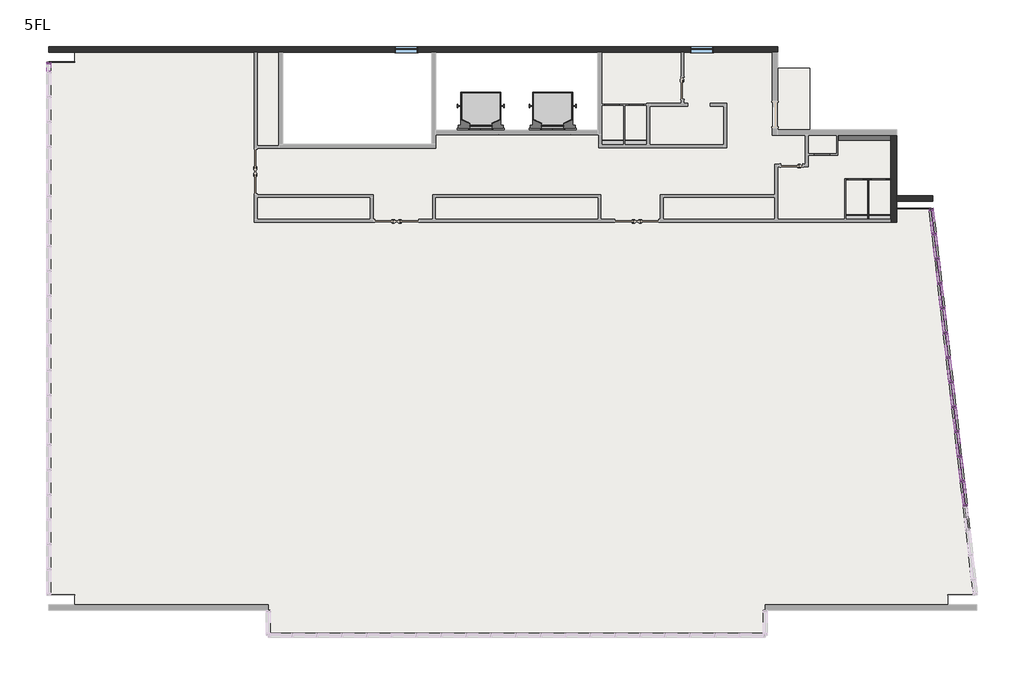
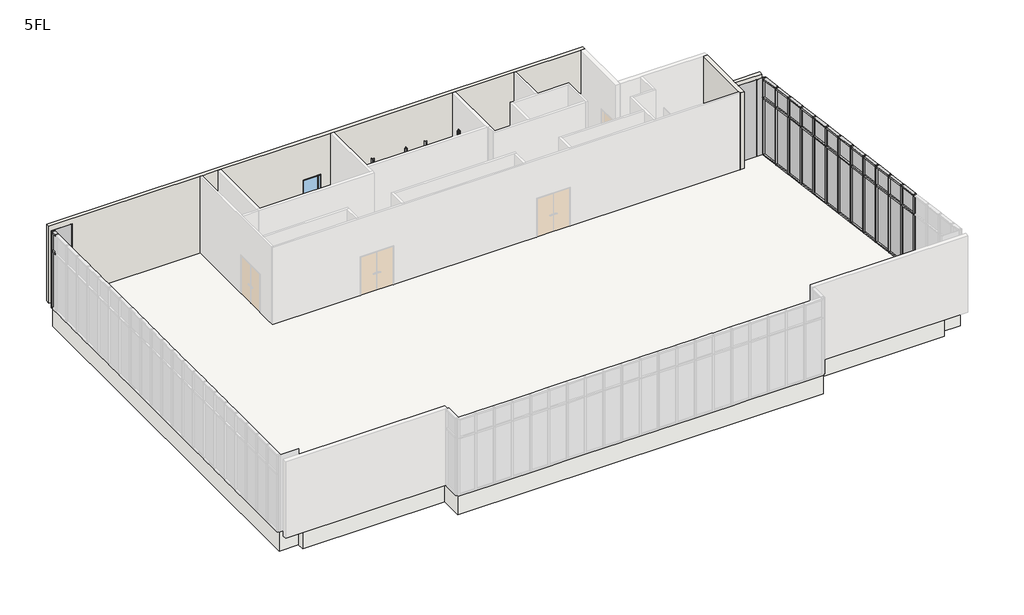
# One storey, part 4 of 4: 67 members, 28 plates, 8 proxies, 5 walls, 4 flow terminals, 2 slabs, 2 windows.
"""IFC4 building model written with IfcOpenShell, lengths in millimetres."""

from ifc_helpers import new_model, si_unit, frame, origin, place, context, project, spatial, polyline, outline, extrude, faceted_brep, transform, mapped, element, save
from components import specialty_equipment_d755c605, d150_h1500_9903e80e, w550_h2000_5054dc5e, w600_h2000_381ad4ff, flow_terminal_205c4ddb, member_70x150_cdd4dcf9, member_70x150_66cf63de, member_70x150_26475b18, member_70x150_ad4265bc, member_70x150_1b280ac3, member_70x150_76429c73, member_70x150_a15bb337, member_70x150_da24903b, plate_d1366ea1, plate_ab860a3c, plate_97be90fd, plate_28587fd3, plate_396bcf3c, w800_h1100_2b598eca

model = new_model("IFC4")

# Units and contexts
model_context = context("Model", 3, world=origin())
ifc_project = project(units=[si_unit("LENGTHUNIT", "METRE", prefix="MILLI")], contexts=[model_context])

# Site, building, storey
site = spatial("IfcSite", under=ifc_project)
building = spatial("IfcBuilding", under=site)
storey = spatial("IfcBuildingStorey", under=building, Name="5FL", Elevation=16600.0)

# Proxies
placement = place(None, origin())
specialty_equipment_shape = specialty_equipment_d755c605(model_context)
element("IfcBuildingElementProxy", 1, Name="エレベーター : 9人乗", ObjectType="エレベーター : 9人乗", at=placement, inside=storey, context=model_context, shape_type="MappedRepresentation", body=[
    mapped(specialty_equipment_shape, transform((-11220.9784025, 13649.6868987, 16600.0), x_axis=(1.0, 0.0, 0.0), y_axis=(0.0, 1.0, 0.0), z_axis=(0.0, 0.0, 1.0))),
])
element("IfcBuildingElementProxy", 2, Name="エレベーター : 9人乗", ObjectType="エレベーター : 9人乗", at=placement, inside=storey, context=model_context, shape_type="MappedRepresentation", body=[
    mapped(specialty_equipment_shape, transform((-13820.9784025, 13649.6868987, 16600.0), x_axis=(1.0, 0.0, 0.0), y_axis=(0.0, 1.0, 0.0), z_axis=(0.0, 0.0, 1.0))),
])
d150_h1500_shape = d150_h1500_9903e80e(model_context)
element("IfcBuildingElementProxy", 3, Name="r ライニング : D150 H1500", ObjectType="r ライニング : D150 H1500", at=placement, inside=storey, context=model_context, shape_type="MappedRepresentation", body=[
    mapped(d150_h1500_shape, transform((-736.1600971, 13521.6596024, 16600.0), x_axis=(1.0, 0.0, 0.0), y_axis=(0.0, 1.0, 0.0), z_axis=(0.0, 0.0, 1.0))),
])
w550_h2000_shape = w550_h2000_5054dc5e(model_context)
element("IfcBuildingElementProxy", 4, Name="r トイレブース扉 : W550 H2000", ObjectType="r トイレブース扉 : W550 H2000", at=placement, inside=storey, context=model_context, shape_type="MappedRepresentation", body=[
    mapped(w550_h2000_shape, transform((-8823.4784025, 14649.6868987, 16600.0), x_axis=(-1.0, 0.0, 0.0), y_axis=(0.0, -1.0, 0.0), z_axis=(0.0, 0.0, 1.0))),
])
element("IfcBuildingElementProxy", 5, Name="r トイレブース扉 : W550 H2000", ObjectType="r トイレブース扉 : W550 H2000", at=placement, inside=storey, context=model_context, shape_type="MappedRepresentation", body=[
    mapped(w550_h2000_shape, transform((-7940.9784025, 14649.6868987, 16600.0), x_axis=(-1.0, 0.0, 0.0), y_axis=(0.0, -1.0, 0.0), z_axis=(0.0, 0.0, 1.0))),
])
element("IfcBuildingElementProxy", 6, Name="r トイレブース扉 : W550 H2000", ObjectType="r トイレブース扉 : W550 H2000", at=placement, inside=storey, context=model_context, shape_type="MappedRepresentation", body=[
    mapped(w550_h2000_shape, transform((-5.9784025, 11949.6868987, 16600.0), x_axis=(-1.0, 0.0, 0.0), y_axis=(0.0, -1.0, 0.0), z_axis=(0.0, 0.0, 1.0))),
])
element("IfcBuildingElementProxy", 7, Name="r トイレブース扉 : W550 H2000", ObjectType="r トイレブース扉 : W550 H2000", at=placement, inside=storey, context=model_context, shape_type="MappedRepresentation", body=[
    mapped(w550_h2000_shape, transform((834.0215975, 11949.6868987, 16600.0), x_axis=(-1.0, 0.0, 0.0), y_axis=(0.0, -1.0, 0.0), z_axis=(0.0, 0.0, 1.0))),
])
w600_h2000_shape = w600_h2000_381ad4ff(model_context)
element("IfcBuildingElementProxy", 8, Name="r トイレブース扉 : W600 H2000", ObjectType="r トイレブース扉 : W600 H2000", at=placement, inside=storey, context=model_context, shape_type="MappedRepresentation", body=[
    mapped(w600_h2000_shape, transform((-1220.9784025, 12849.6868987, 16600.0), x_axis=(-1.0, 0.0, 0.0), y_axis=(0.0, -1.0, 0.0), z_axis=(0.0, 0.0, 1.0))),
])

# Flow terminals
flow_terminal_shape = flow_terminal_205c4ddb(model_context)
element("IfcFlowTerminal", 9, ObjectType="洋式便器 - ライニング付 - 2D : タイプ 1", at=placement, inside=storey, context=model_context, shape_type="MappedRepresentation", body=[
    mapped(flow_terminal_shape, transform((-9045.9784025, 13149.6868987, 16600.0), x_axis=(1.0, 0.0, 0.0), y_axis=(0.0, 1.0, 0.0), z_axis=(0.0, 0.0, 1.0))),
])
element("IfcFlowTerminal", 10, ObjectType="洋式便器 - ライニング付 - 2D : タイプ 1", at=placement, inside=storey, context=model_context, shape_type="MappedRepresentation", body=[
    mapped(flow_terminal_shape, transform((-8205.9784025, 13149.6868987, 16600.0), x_axis=(1.0, 0.0, 0.0), y_axis=(0.0, 1.0, 0.0), z_axis=(0.0, 0.0, 1.0))),
])
element("IfcFlowTerminal", 11, ObjectType="洋式便器 - ライニング付 - 2D : タイプ 1", at=placement, inside=storey, context=model_context, shape_type="MappedRepresentation", body=[
    mapped(flow_terminal_shape, transform((-210.9784025, 10449.6868987, 16600.0), x_axis=(1.0, 0.0, 0.0), y_axis=(0.0, 1.0, 0.0), z_axis=(0.0, 0.0, 1.0))),
])
element("IfcFlowTerminal", 12, ObjectType="洋式便器 - ライニング付 - 2D : タイプ 1", at=placement, inside=storey, context=model_context, shape_type="MappedRepresentation", body=[
    mapped(flow_terminal_shape, transform((629.0215975, 10449.6868987, 16600.0), x_axis=(1.0, 0.0, 0.0), y_axis=(0.0, 1.0, 0.0), z_axis=(0.0, 0.0, 1.0))),
])

# Members
member_70x150_shape = member_70x150_cdd4dcf9(model_context)
element("IfcMember", 13, ObjectType="長方形のマリオン : 70x150", at=placement, inside=storey, context=model_context, shape_type="MappedRepresentation", body=[
    mapped(member_70x150_shape, transform((3840.8083387, 134.7603905, 16600.0), x_axis=(0.11354659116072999, -0.9935326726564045, 0.0), y_axis=(-0.9935326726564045, -0.11354659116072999, 0.0), z_axis=(0.0, 0.0, -1.0))),
])
element("IfcMember", 14, ObjectType="長方形のマリオン : 70x150", at=placement, inside=storey, context=model_context, shape_type="MappedRepresentation", body=[
    mapped(member_70x150_shape, transform((3738.6164066, 1028.9397959, 16600.0), x_axis=(0.11354659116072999, -0.9935326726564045, 0.0), y_axis=(-0.9935326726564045, -0.11354659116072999, 0.0), z_axis=(0.0, 0.0, -1.0))),
])
element("IfcMember", 15, ObjectType="長方形のマリオン : 70x150", at=placement, inside=storey, context=model_context, shape_type="MappedRepresentation", body=[
    mapped(member_70x150_shape, transform((3636.4244746, 1923.1192013, 16600.0), x_axis=(0.11354659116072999, -0.9935326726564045, 0.0), y_axis=(-0.9935326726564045, -0.11354659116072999, 0.0), z_axis=(0.0, 0.0, -1.0))),
])
element("IfcMember", 16, ObjectType="長方形のマリオン : 70x150", at=placement, inside=storey, context=model_context, shape_type="MappedRepresentation", body=[
    mapped(member_70x150_shape, transform((3534.2325425, 2817.2986066, 16600.0), x_axis=(0.11354659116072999, -0.9935326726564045, 0.0), y_axis=(-0.9935326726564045, -0.11354659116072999, 0.0), z_axis=(0.0, 0.0, -1.0))),
])
element("IfcMember", 17, ObjectType="長方形のマリオン : 70x150", at=placement, inside=storey, context=model_context, shape_type="MappedRepresentation", body=[
    mapped(member_70x150_shape, transform((3432.0406105, 3711.478012, 16600.0), x_axis=(0.11354659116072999, -0.9935326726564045, 0.0), y_axis=(-0.9935326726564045, -0.11354659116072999, 0.0), z_axis=(0.0, 0.0, -1.0))),
])
element("IfcMember", 18, ObjectType="長方形のマリオン : 70x150", at=placement, inside=storey, context=model_context, shape_type="MappedRepresentation", body=[
    mapped(member_70x150_shape, transform((3329.8486784, 4605.6574174, 16600.0), x_axis=(0.11354659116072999, -0.9935326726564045, 0.0), y_axis=(-0.9935326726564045, -0.11354659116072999, 0.0), z_axis=(0.0, 0.0, -1.0))),
])
element("IfcMember", 19, ObjectType="長方形のマリオン : 70x150", at=placement, inside=storey, context=model_context, shape_type="MappedRepresentation", body=[
    mapped(member_70x150_shape, transform((3227.6567464, 5499.8368228, 16600.0), x_axis=(0.11354659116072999, -0.9935326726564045, 0.0), y_axis=(-0.9935326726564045, -0.11354659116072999, 0.0), z_axis=(0.0, 0.0, -1.0))),
])
element("IfcMember", 20, ObjectType="長方形のマリオン : 70x150", at=placement, inside=storey, context=model_context, shape_type="MappedRepresentation", body=[
    mapped(member_70x150_shape, transform((3125.4648143, 6394.0162282, 16600.0), x_axis=(0.11354659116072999, -0.9935326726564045, 0.0), y_axis=(-0.9935326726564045, -0.11354659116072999, 0.0), z_axis=(0.0, 0.0, -1.0))),
])
element("IfcMember", 21, ObjectType="長方形のマリオン : 70x150", at=placement, inside=storey, context=model_context, shape_type="MappedRepresentation", body=[
    mapped(member_70x150_shape, transform((3023.2728823, 7288.1956336, 16600.0), x_axis=(0.11354659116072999, -0.9935326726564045, 0.0), y_axis=(-0.9935326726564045, -0.11354659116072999, 0.0), z_axis=(0.0, 0.0, -1.0))),
])
element("IfcMember", 22, ObjectType="長方形のマリオン : 70x150", at=placement, inside=storey, context=model_context, shape_type="MappedRepresentation", body=[
    mapped(member_70x150_shape, transform((2921.0809503, 8182.375039, 16600.0), x_axis=(0.11354659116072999, -0.9935326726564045, 0.0), y_axis=(-0.9935326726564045, -0.11354659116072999, 0.0), z_axis=(0.0, 0.0, -1.0))),
])
element("IfcMember", 23, ObjectType="長方形のマリオン : 70x150", at=placement, inside=storey, context=model_context, shape_type="MappedRepresentation", body=[
    mapped(member_70x150_shape, transform((2818.8890182, 9076.5544444, 16600.0), x_axis=(0.11354659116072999, -0.9935326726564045, 0.0), y_axis=(-0.9935326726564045, -0.11354659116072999, 0.0), z_axis=(0.0, 0.0, -1.0))),
])
element("IfcMember", 24, ObjectType="長方形のマリオン : 70x150", at=placement, inside=storey, context=model_context, shape_type="MappedRepresentation", body=[
    mapped(member_70x150_shape, transform((2716.6970862, 9970.7338498, 16600.0), x_axis=(0.11354659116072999, -0.9935326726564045, 0.0), y_axis=(-0.9935326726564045, -0.11354659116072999, 0.0), z_axis=(0.0, 0.0, -1.0))),
])
member_70x150_2_shape = member_70x150_66cf63de(model_context)
element("IfcMember", 25, ObjectType="長方形のマリオン : 70x150", at=placement, inside=storey, context=model_context, shape_type="MappedRepresentation", body=[
    mapped(member_70x150_2_shape, transform((2618.4792848, 10830.1396116, 16600.0), x_axis=(0.0, 0.0, -1.0), y_axis=(-0.9935326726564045, -0.11354659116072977, 0.0), z_axis=(-0.11354659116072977, 0.9935326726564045, 0.0))),
])
element("IfcMember", 26, ObjectType="長方形のマリオン : 70x150", at=placement, inside=storey, context=model_context, shape_type="MappedRepresentation", body=[
    mapped(member_70x150_2_shape, transform((3844.7824693, 99.9867469, 16600.0), x_axis=(0.0, 0.0, -1.0), y_axis=(-0.9935326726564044, -0.11354659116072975, 0.0), z_axis=(-0.11354659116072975, 0.9935326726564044, 0.0))),
])
element("IfcMember", 27, ObjectType="長方形のマリオン : 70x150", at=placement, inside=storey, context=model_context, shape_type="MappedRepresentation", body=[
    mapped(member_70x150_2_shape, transform((3742.5905373, 994.1661523, 16600.0), x_axis=(0.0, 0.0, -1.0), y_axis=(-0.9935326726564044, -0.1135465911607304, 0.0), z_axis=(-0.11354659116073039, 0.9935326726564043, 0.0))),
])
element("IfcMember", 28, ObjectType="長方形のマリオン : 70x150", at=placement, inside=storey, context=model_context, shape_type="MappedRepresentation", body=[
    mapped(member_70x150_2_shape, transform((3640.3986053, 1888.3455577, 16600.0), x_axis=(0.0, 0.0, -1.0), y_axis=(-0.9935326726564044, -0.1135465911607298, 0.0), z_axis=(-0.1135465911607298, 0.9935326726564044, 0.0))),
])
element("IfcMember", 29, ObjectType="長方形のマリオン : 70x150", at=placement, inside=storey, context=model_context, shape_type="MappedRepresentation", body=[
    mapped(member_70x150_2_shape, transform((3538.2066732, 2782.5249631, 16600.0), x_axis=(0.0, 0.0, -1.0), y_axis=(-0.9935326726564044, -0.1135465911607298, 0.0), z_axis=(-0.1135465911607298, 0.9935326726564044, 0.0))),
])
element("IfcMember", 30, ObjectType="長方形のマリオン : 70x150", at=placement, inside=storey, context=model_context, shape_type="MappedRepresentation", body=[
    mapped(member_70x150_2_shape, transform((3436.0147412, 3676.7043685, 16600.0), x_axis=(0.0, 0.0, -1.0), y_axis=(-0.9935326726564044, -0.11354659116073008, 0.0), z_axis=(-0.11354659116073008, 0.9935326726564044, 0.0))),
])
element("IfcMember", 31, ObjectType="長方形のマリオン : 70x150", at=placement, inside=storey, context=model_context, shape_type="MappedRepresentation", body=[
    mapped(member_70x150_2_shape, transform((3333.8228091, 4570.8837739, 16600.0), x_axis=(0.0, 0.0, -1.0), y_axis=(-0.9935326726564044, -0.11354659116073, 0.0), z_axis=(-0.11354659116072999, 0.9935326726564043, 0.0))),
])
element("IfcMember", 32, ObjectType="長方形のマリオン : 70x150", at=placement, inside=storey, context=model_context, shape_type="MappedRepresentation", body=[
    mapped(member_70x150_2_shape, transform((3231.6308771, 5465.0631793, 16600.0), x_axis=(0.0, 0.0, -1.0), y_axis=(-0.9935326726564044, -0.11354659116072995, 0.0), z_axis=(-0.11354659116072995, 0.9935326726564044, 0.0))),
])
element("IfcMember", 33, ObjectType="長方形のマリオン : 70x150", at=placement, inside=storey, context=model_context, shape_type="MappedRepresentation", body=[
    mapped(member_70x150_2_shape, transform((3129.438945, 6359.2425847, 16600.0), x_axis=(0.0, 0.0, -1.0), y_axis=(-0.9935326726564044, -0.11354659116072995, 0.0), z_axis=(-0.11354659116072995, 0.9935326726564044, 0.0))),
])
element("IfcMember", 34, ObjectType="長方形のマリオン : 70x150", at=placement, inside=storey, context=model_context, shape_type="MappedRepresentation", body=[
    mapped(member_70x150_2_shape, transform((3027.247013, 7253.4219901, 16600.0), x_axis=(0.0, 0.0, -1.0), y_axis=(-0.9935326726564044, -0.11354659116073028, 0.0), z_axis=(-0.11354659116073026, 0.9935326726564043, 0.0))),
])
element("IfcMember", 35, ObjectType="長方形のマリオン : 70x150", at=placement, inside=storey, context=model_context, shape_type="MappedRepresentation", body=[
    mapped(member_70x150_2_shape, transform((2925.0550809, 8147.6013954, 16600.0), x_axis=(0.0, 0.0, -1.0), y_axis=(-0.9935326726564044, -0.1135465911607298, 0.0), z_axis=(-0.1135465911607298, 0.9935326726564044, 0.0))),
])
element("IfcMember", 36, ObjectType="長方形のマリオン : 70x150", at=placement, inside=storey, context=model_context, shape_type="MappedRepresentation", body=[
    mapped(member_70x150_2_shape, transform((2822.8631489, 9041.7808008, 16600.0), x_axis=(0.0, 0.0, -1.0), y_axis=(-0.9935326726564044, -0.11354659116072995, 0.0), z_axis=(-0.11354659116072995, 0.9935326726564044, 0.0))),
])
element("IfcMember", 37, ObjectType="長方形のマリオン : 70x150", at=placement, inside=storey, context=model_context, shape_type="MappedRepresentation", body=[
    mapped(member_70x150_2_shape, transform((2720.6712169, 9935.9602062, 16600.0), x_axis=(0.0, 0.0, -1.0), y_axis=(-0.9935326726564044, -0.11354659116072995, 0.0), z_axis=(-0.11354659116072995, 0.9935326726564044, 0.0))),
])
element("IfcMember", 38, ObjectType="長方形のマリオン : 70x150", at=placement, inside=storey, context=model_context, shape_type="MappedRepresentation", body=[
    mapped(member_70x150_2_shape, transform((3836.834208, 169.534034, 20600.0), x_axis=(0.0, 0.0, 1.0), y_axis=(-0.9935326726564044, -0.11354659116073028, 0.0), z_axis=(0.11354659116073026, -0.9935326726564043, 0.0))),
])
element("IfcMember", 39, ObjectType="長方形のマリオン : 70x150", at=placement, inside=storey, context=model_context, shape_type="MappedRepresentation", body=[
    mapped(member_70x150_2_shape, transform((3734.6422759, 1063.7134394, 20600.0), x_axis=(0.0, 0.0, 1.0), y_axis=(-0.9935326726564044, -0.11354659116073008, 0.0), z_axis=(0.11354659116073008, -0.9935326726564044, 0.0))),
])
element("IfcMember", 40, ObjectType="長方形のマリオン : 70x150", at=placement, inside=storey, context=model_context, shape_type="MappedRepresentation", body=[
    mapped(member_70x150_2_shape, transform((3632.4503439, 1957.8928448, 20600.0), x_axis=(0.0, 0.0, 1.0), y_axis=(-0.9935326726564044, -0.11354659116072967, 0.0), z_axis=(0.11354659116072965, -0.9935326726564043, 0.0))),
])
element("IfcMember", 41, ObjectType="長方形のマリオン : 70x150", at=placement, inside=storey, context=model_context, shape_type="MappedRepresentation", body=[
    mapped(member_70x150_2_shape, transform((3530.2584118, 2852.0722502, 20600.0), x_axis=(0.0, 0.0, 1.0), y_axis=(-0.9935326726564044, -0.11354659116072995, 0.0), z_axis=(0.11354659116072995, -0.9935326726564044, 0.0))),
])
element("IfcMember", 42, ObjectType="長方形のマリオン : 70x150", at=placement, inside=storey, context=model_context, shape_type="MappedRepresentation", body=[
    mapped(member_70x150_2_shape, transform((3428.0664798, 3746.2516556, 20600.0), x_axis=(0.0, 0.0, 1.0), y_axis=(-0.9935326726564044, -0.11354659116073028, 0.0), z_axis=(0.11354659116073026, -0.9935326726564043, 0.0))),
])
element("IfcMember", 43, ObjectType="長方形のマリオン : 70x150", at=placement, inside=storey, context=model_context, shape_type="MappedRepresentation", body=[
    mapped(member_70x150_2_shape, transform((3325.8745477, 4640.431061, 20600.0), x_axis=(0.0, 0.0, 1.0), y_axis=(-0.9935326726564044, -0.11354659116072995, 0.0), z_axis=(0.11354659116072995, -0.9935326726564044, 0.0))),
])
element("IfcMember", 44, ObjectType="長方形のマリオン : 70x150", at=placement, inside=storey, context=model_context, shape_type="MappedRepresentation", body=[
    mapped(member_70x150_2_shape, transform((3223.6826157, 5534.6104664, 20600.0), x_axis=(0.0, 0.0, 1.0), y_axis=(-0.9935326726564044, -0.11354659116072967, 0.0), z_axis=(0.11354659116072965, -0.9935326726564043, 0.0))),
])
element("IfcMember", 45, ObjectType="長方形のマリオン : 70x150", at=placement, inside=storey, context=model_context, shape_type="MappedRepresentation", body=[
    mapped(member_70x150_2_shape, transform((3121.4906836, 6428.7898717, 20600.0), x_axis=(0.0, 0.0, 1.0), y_axis=(-0.9935326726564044, -0.1135465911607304, 0.0), z_axis=(0.11354659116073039, -0.9935326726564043, 0.0))),
])
element("IfcMember", 46, ObjectType="長方形のマリオン : 70x150", at=placement, inside=storey, context=model_context, shape_type="MappedRepresentation", body=[
    mapped(member_70x150_2_shape, transform((3019.2987516, 7322.9692771, 20600.0), x_axis=(0.0, 0.0, 1.0), y_axis=(-0.9935326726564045, -0.11354659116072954, 0.0), z_axis=(0.11354659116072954, -0.9935326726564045, 0.0))),
])
element("IfcMember", 47, ObjectType="長方形のマリオン : 70x150", at=placement, inside=storey, context=model_context, shape_type="MappedRepresentation", body=[
    mapped(member_70x150_2_shape, transform((2917.1068196, 8217.1486825, 20600.0), x_axis=(0.0, 0.0, 1.0), y_axis=(-0.9935326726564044, -0.11354659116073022, 0.0), z_axis=(0.11354659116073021, -0.9935326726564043, 0.0))),
])
element("IfcMember", 48, ObjectType="長方形のマリオン : 70x150", at=placement, inside=storey, context=model_context, shape_type="MappedRepresentation", body=[
    mapped(member_70x150_2_shape, transform((2814.9148875, 9111.3280879, 20600.0), x_axis=(0.0, 0.0, 1.0), y_axis=(-0.9935326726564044, -0.11354659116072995, 0.0), z_axis=(0.11354659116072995, -0.9935326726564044, 0.0))),
])
element("IfcMember", 49, ObjectType="長方形のマリオン : 70x150", at=placement, inside=storey, context=model_context, shape_type="MappedRepresentation", body=[
    mapped(member_70x150_2_shape, transform((2712.7229555, 10005.5074933, 20600.0), x_axis=(0.0, 0.0, 1.0), y_axis=(-0.9935326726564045, -0.11354659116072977, 0.0), z_axis=(0.11354659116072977, -0.9935326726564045, 0.0))),
])
member_70x150_3_shape = member_70x150_26475b18(model_context)
element("IfcMember", 50, ObjectType="長方形のマリオン : 70x150", at=placement, inside=storey, context=model_context, shape_type="MappedRepresentation", body=[
    mapped(member_70x150_3_shape, transform((3534.2325425, 2817.2986066, 19600.0), x_axis=(0.11354659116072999, -0.9935326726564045, 0.0), y_axis=(-0.9935326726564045, -0.11354659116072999, 0.0), z_axis=(0.0, 0.0, -1.0))),
])
element("IfcMember", 51, ObjectType="長方形のマリオン : 70x150", at=placement, inside=storey, context=model_context, shape_type="MappedRepresentation", body=[
    mapped(member_70x150_3_shape, transform((3636.4244746, 1923.1192013, 19600.0), x_axis=(0.11354659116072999, -0.9935326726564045, 0.0), y_axis=(-0.9935326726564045, -0.11354659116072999, 0.0), z_axis=(0.0, 0.0, -1.0))),
])
element("IfcMember", 52, ObjectType="長方形のマリオン : 70x150", at=placement, inside=storey, context=model_context, shape_type="MappedRepresentation", body=[
    mapped(member_70x150_3_shape, transform((3738.6164066, 1028.9397959, 19600.0), x_axis=(0.11354659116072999, -0.9935326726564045, 0.0), y_axis=(-0.9935326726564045, -0.11354659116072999, 0.0), z_axis=(0.0, 0.0, -1.0))),
])
element("IfcMember", 53, ObjectType="長方形のマリオン : 70x150", at=placement, inside=storey, context=model_context, shape_type="MappedRepresentation", body=[
    mapped(member_70x150_3_shape, transform((3840.8083387, 134.7603905, 19600.0), x_axis=(0.11354659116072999, -0.9935326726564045, 0.0), y_axis=(-0.9935326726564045, -0.11354659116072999, 0.0), z_axis=(0.0, 0.0, -1.0))),
])
element("IfcMember", 54, ObjectType="長方形のマリオン : 70x150", at=placement, inside=storey, context=model_context, shape_type="MappedRepresentation", body=[
    mapped(member_70x150_3_shape, transform((3432.0406105, 3711.478012, 19600.0), x_axis=(0.11354659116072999, -0.9935326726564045, 0.0), y_axis=(-0.9935326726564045, -0.11354659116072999, 0.0), z_axis=(0.0, 0.0, -1.0))),
])
element("IfcMember", 55, ObjectType="長方形のマリオン : 70x150", at=placement, inside=storey, context=model_context, shape_type="MappedRepresentation", body=[
    mapped(member_70x150_3_shape, transform((3329.8486784, 4605.6574174, 19600.0), x_axis=(0.11354659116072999, -0.9935326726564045, 0.0), y_axis=(-0.9935326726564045, -0.11354659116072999, 0.0), z_axis=(0.0, 0.0, -1.0))),
])
element("IfcMember", 56, ObjectType="長方形のマリオン : 70x150", at=placement, inside=storey, context=model_context, shape_type="MappedRepresentation", body=[
    mapped(member_70x150_3_shape, transform((3227.6567464, 5499.8368228, 19600.0), x_axis=(0.11354659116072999, -0.9935326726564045, 0.0), y_axis=(-0.9935326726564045, -0.11354659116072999, 0.0), z_axis=(0.0, 0.0, -1.0))),
])
element("IfcMember", 57, ObjectType="長方形のマリオン : 70x150", at=placement, inside=storey, context=model_context, shape_type="MappedRepresentation", body=[
    mapped(member_70x150_3_shape, transform((3125.4648143, 6394.0162282, 19600.0), x_axis=(0.11354659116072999, -0.9935326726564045, 0.0), y_axis=(-0.9935326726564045, -0.11354659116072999, 0.0), z_axis=(0.0, 0.0, -1.0))),
])
element("IfcMember", 58, ObjectType="長方形のマリオン : 70x150", at=placement, inside=storey, context=model_context, shape_type="MappedRepresentation", body=[
    mapped(member_70x150_3_shape, transform((3023.2728823, 7288.1956336, 19600.0), x_axis=(0.11354659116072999, -0.9935326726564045, 0.0), y_axis=(-0.9935326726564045, -0.11354659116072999, 0.0), z_axis=(0.0, 0.0, -1.0))),
])
element("IfcMember", 59, ObjectType="長方形のマリオン : 70x150", at=placement, inside=storey, context=model_context, shape_type="MappedRepresentation", body=[
    mapped(member_70x150_3_shape, transform((2921.0809503, 8182.375039, 19600.0), x_axis=(0.11354659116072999, -0.9935326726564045, 0.0), y_axis=(-0.9935326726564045, -0.11354659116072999, 0.0), z_axis=(0.0, 0.0, -1.0))),
])
element("IfcMember", 60, ObjectType="長方形のマリオン : 70x150", at=placement, inside=storey, context=model_context, shape_type="MappedRepresentation", body=[
    mapped(member_70x150_3_shape, transform((2818.8890182, 9076.5544444, 19600.0), x_axis=(0.11354659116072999, -0.9935326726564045, 0.0), y_axis=(-0.9935326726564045, -0.11354659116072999, 0.0), z_axis=(0.0, 0.0, -1.0))),
])
element("IfcMember", 61, ObjectType="長方形のマリオン : 70x150", at=placement, inside=storey, context=model_context, shape_type="MappedRepresentation", body=[
    mapped(member_70x150_3_shape, transform((2716.6970862, 9970.7338498, 19600.0), x_axis=(0.11354659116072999, -0.9935326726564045, 0.0), y_axis=(-0.9935326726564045, -0.11354659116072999, 0.0), z_axis=(0.0, 0.0, -1.0))),
])
member_70x150_4_shape = member_70x150_ad4265bc(model_context)
element("IfcMember", 62, ObjectType="長方形のマリオン : 70x150", at=placement, inside=storey, context=model_context, shape_type="MappedRepresentation", body=[
    mapped(member_70x150_4_shape, transform((3223.6826157, 5534.6104664, 19600.0), x_axis=(0.0, 0.0, 1.0), y_axis=(-0.9935326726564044, -0.11354659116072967, 0.0), z_axis=(0.11354659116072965, -0.9935326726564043, 0.0))),
])
element("IfcMember", 63, ObjectType="長方形のマリオン : 70x150", at=placement, inside=storey, context=model_context, shape_type="MappedRepresentation", body=[
    mapped(member_70x150_4_shape, transform((3121.4906836, 6428.7898717, 19600.0), x_axis=(0.0, 0.0, 1.0), y_axis=(-0.9935326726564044, -0.1135465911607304, 0.0), z_axis=(0.11354659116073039, -0.9935326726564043, 0.0))),
])
element("IfcMember", 64, ObjectType="長方形のマリオン : 70x150", at=placement, inside=storey, context=model_context, shape_type="MappedRepresentation", body=[
    mapped(member_70x150_4_shape, transform((3019.2987516, 7322.9692771, 19600.0), x_axis=(0.0, 0.0, 1.0), y_axis=(-0.9935326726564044, -0.11354659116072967, 0.0), z_axis=(0.11354659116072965, -0.9935326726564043, 0.0))),
])
element("IfcMember", 65, ObjectType="長方形のマリオン : 70x150", at=placement, inside=storey, context=model_context, shape_type="MappedRepresentation", body=[
    mapped(member_70x150_4_shape, transform((2917.1068196, 8217.1486825, 19600.0), x_axis=(0.0, 0.0, 1.0), y_axis=(-0.9935326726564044, -0.11354659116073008, 0.0), z_axis=(0.11354659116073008, -0.9935326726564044, 0.0))),
])
element("IfcMember", 66, ObjectType="長方形のマリオン : 70x150", at=placement, inside=storey, context=model_context, shape_type="MappedRepresentation", body=[
    mapped(member_70x150_4_shape, transform((2814.9148875, 9111.3280879, 19600.0), x_axis=(0.0, 0.0, 1.0), y_axis=(-0.9935326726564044, -0.11354659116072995, 0.0), z_axis=(0.11354659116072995, -0.9935326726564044, 0.0))),
])
element("IfcMember", 67, ObjectType="長方形のマリオン : 70x150", at=placement, inside=storey, context=model_context, shape_type="MappedRepresentation", body=[
    mapped(member_70x150_4_shape, transform((2712.7229555, 10005.5074933, 19600.0), x_axis=(0.0, 0.0, 1.0), y_axis=(-0.9935326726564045, -0.11354659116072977, 0.0), z_axis=(0.11354659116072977, -0.9935326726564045, 0.0))),
])
element("IfcMember", 68, ObjectType="長方形のマリオン : 70x150", at=placement, inside=storey, context=model_context, shape_type="MappedRepresentation", body=[
    mapped(member_70x150_4_shape, transform((3836.834208, 169.534034, 19600.0), x_axis=(0.0, 0.0, 1.0), y_axis=(-0.9935326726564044, -0.11354659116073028, 0.0), z_axis=(0.11354659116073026, -0.9935326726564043, 0.0))),
])
element("IfcMember", 69, ObjectType="長方形のマリオン : 70x150", at=placement, inside=storey, context=model_context, shape_type="MappedRepresentation", body=[
    mapped(member_70x150_4_shape, transform((3734.6422759, 1063.7134394, 19600.0), x_axis=(0.0, 0.0, 1.0), y_axis=(-0.9935326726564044, -0.11354659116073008, 0.0), z_axis=(0.11354659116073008, -0.9935326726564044, 0.0))),
])
element("IfcMember", 70, ObjectType="長方形のマリオン : 70x150", at=placement, inside=storey, context=model_context, shape_type="MappedRepresentation", body=[
    mapped(member_70x150_4_shape, transform((3632.4503439, 1957.8928448, 19600.0), x_axis=(0.0, 0.0, 1.0), y_axis=(-0.9935326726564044, -0.11354659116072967, 0.0), z_axis=(0.11354659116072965, -0.9935326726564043, 0.0))),
])
element("IfcMember", 71, ObjectType="長方形のマリオン : 70x150", at=placement, inside=storey, context=model_context, shape_type="MappedRepresentation", body=[
    mapped(member_70x150_4_shape, transform((3530.2584118, 2852.0722502, 19600.0), x_axis=(0.0, 0.0, 1.0), y_axis=(-0.9935326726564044, -0.11354659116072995, 0.0), z_axis=(0.11354659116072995, -0.9935326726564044, 0.0))),
])
element("IfcMember", 72, ObjectType="長方形のマリオン : 70x150", at=placement, inside=storey, context=model_context, shape_type="MappedRepresentation", body=[
    mapped(member_70x150_4_shape, transform((3428.0664798, 3746.2516556, 19600.0), x_axis=(0.0, 0.0, 1.0), y_axis=(-0.9935326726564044, -0.11354659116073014, 0.0), z_axis=(0.11354659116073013, -0.9935326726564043, 0.0))),
])
element("IfcMember", 73, ObjectType="長方形のマリオン : 70x150", at=placement, inside=storey, context=model_context, shape_type="MappedRepresentation", body=[
    mapped(member_70x150_4_shape, transform((3325.8745477, 4640.431061, 19600.0), x_axis=(0.0, 0.0, 1.0), y_axis=(-0.9935326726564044, -0.11354659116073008, 0.0), z_axis=(0.11354659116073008, -0.9935326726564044, 0.0))),
])
member_70x150_5_shape = member_70x150_1b280ac3(model_context)
element("IfcMember", 74, ObjectType="長方形のマリオン : 70x150", at=placement, inside=storey, context=model_context, shape_type="MappedRepresentation", body=[
    mapped(member_70x150_5_shape, transform((-29345.9784025, 16199.6868987, 16600.0), x_axis=(0.0, 1.0, 0.0), y_axis=(1.0, 0.0, 0.0), z_axis=(0.0, 0.0, -1.0))),
])
member_70x150_6_shape = member_70x150_76429c73(model_context)
element("IfcMember", 75, ObjectType="長方形のマリオン : 70x150", at=placement, inside=storey, context=model_context, shape_type="MappedRepresentation", body=[
    mapped(member_70x150_6_shape, transform((2610.5310234, 10899.6868987, 20600.0), x_axis=(-0.11354659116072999, 0.9935326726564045, 0.0), y_axis=(-0.9935326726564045, -0.11354659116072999, 0.0), z_axis=(0.0, 0.0, 1.0))),
])
element("IfcMember", 76, ObjectType="長方形のマリオン : 70x150", at=placement, inside=storey, context=model_context, shape_type="MappedRepresentation", body=[
    mapped(member_70x150_6_shape, transform((-29345.9784025, 16199.6868987, 19600.0), x_axis=(0.0, 1.0, 0.0), y_axis=(1.0, 0.0, 0.0), z_axis=(0.0, 0.0, -1.0))),
])
element("IfcMember", 77, ObjectType="長方形のマリオン : 70x150", at=placement, inside=storey, context=model_context, shape_type="MappedRepresentation", body=[
    mapped(member_70x150_5_shape, transform((2610.5310234, 10899.6868987, 19600.0), x_axis=(-0.11354659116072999, 0.9935326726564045, 0.0), y_axis=(-0.9935326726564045, -0.11354659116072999, 0.0), z_axis=(0.0, 0.0, 1.0))),
])
member_70x150_7_shape = member_70x150_a15bb337(model_context)
element("IfcMember", 78, ObjectType="長方形のマリオン : 70x150", at=placement, inside=storey, context=model_context, shape_type="MappedRepresentation", body=[
    mapped(member_70x150_7_shape, transform((-29345.9784025, 16129.6868987, 20600.0), x_axis=(0.0, 0.0, 1.0), y_axis=(1.0, 0.0, 0.0), z_axis=(0.0, 1.0, 0.0))),
])
member_70x150_8_shape = member_70x150_da24903b(model_context)
element("IfcMember", 79, ObjectType="長方形のマリオン : 70x150", at=placement, inside=storey, context=model_context, shape_type="MappedRepresentation", body=[
    mapped(member_70x150_8_shape, transform((-29345.9784025, 16129.6868987, 19600.0), x_axis=(0.0, 0.0, 1.0), y_axis=(1.0, 0.0, 0.0), z_axis=(0.0, 1.0, 0.0))),
])

# Plates
plate_shape = plate_d1366ea1(model_context)
element("IfcPlate", 80, ObjectType="システム パネル : 標準", at=placement, inside=storey, context=model_context, shape_type="MappedRepresentation", body=[
    mapped(plate_shape, transform((1804.0215975, 10899.6868987, 16600.0), x_axis=(1.0, 0.0, 0.0), y_axis=(0.0, 1.0, 0.0), z_axis=(0.0, 0.0, 1.0))),
])
element("IfcPlate", 81, ObjectType="システム パネル : 標準", at=placement, inside=storey, context=model_context, shape_type="MappedRepresentation", body=[
    mapped(plate_shape, transform((-28895.9784025, 16199.6868987, 16600.0), x_axis=(1.0, 0.0, 0.0), y_axis=(0.0, 1.0, 0.0), z_axis=(0.0, 0.0, 1.0))),
])
plate_2_shape = plate_ab860a3c(model_context)
element("IfcPlate", 82, ObjectType="システム パネル : 標準", at=placement, inside=storey, context=model_context, shape_type="MappedRepresentation", body=[
    mapped(plate_2_shape, transform((-28420.9784025, 16199.6868987, 16600.0), x_axis=(1.0, 0.0, 0.0), y_axis=(0.0, 1.0, 0.0), z_axis=(0.0, 0.0, 1.0))),
])
plate_3_shape = plate_97be90fd(model_context)
element("IfcPlate", 83, ObjectType="システム パネル : 標準", at=placement, inside=storey, context=model_context, shape_type="MappedRepresentation", body=[
    mapped(plate_3_shape, transform((2432.2763105, 10899.6868987, 16600.0), x_axis=(1.0, 0.0, 0.0), y_axis=(0.0, 1.0, 0.0), z_axis=(0.0, 0.0, 1.0))),
])
plate_4_shape = plate_28587fd3(model_context)
element("IfcPlate", 84, ObjectType="システム パネル : 標準", at=placement, inside=storey, context=model_context, shape_type="MappedRepresentation", body=[
    mapped(plate_4_shape, transform((2665.6011201, 10417.8235525, 16670.0), x_axis=(0.11354659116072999, -0.9935326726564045, 0.0), y_axis=(0.9935326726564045, 0.11354659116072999, 0.0), z_axis=(0.0, 0.0, 1.0))),
])
element("IfcPlate", 85, ObjectType="システム パネル : 標準", at=placement, inside=storey, context=model_context, shape_type="MappedRepresentation", body=[
    mapped(plate_4_shape, transform((2767.7930522, 9523.6441471, 16670.0), x_axis=(0.11354659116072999, -0.9935326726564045, 0.0), y_axis=(0.9935326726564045, 0.11354659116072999, 0.0), z_axis=(0.0, 0.0, 1.0))),
])
element("IfcPlate", 86, ObjectType="システム パネル : 標準", at=placement, inside=storey, context=model_context, shape_type="MappedRepresentation", body=[
    mapped(plate_4_shape, transform((2869.9849842, 8629.4647417, 16670.0), x_axis=(0.11354659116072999, -0.9935326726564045, 0.0), y_axis=(0.9935326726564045, 0.11354659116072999, 0.0), z_axis=(0.0, 0.0, 1.0))),
])
element("IfcPlate", 87, ObjectType="システム パネル : 標準", at=placement, inside=storey, context=model_context, shape_type="MappedRepresentation", body=[
    mapped(plate_4_shape, transform((2972.1769163, 7735.2853363, 16670.0), x_axis=(0.11354659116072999, -0.9935326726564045, 0.0), y_axis=(0.9935326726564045, 0.11354659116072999, 0.0), z_axis=(0.0, 0.0, 1.0))),
])
element("IfcPlate", 88, ObjectType="システム パネル : 標準", at=placement, inside=storey, context=model_context, shape_type="MappedRepresentation", body=[
    mapped(plate_4_shape, transform((3074.3688483, 6841.1059309, 16670.0), x_axis=(0.11354659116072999, -0.9935326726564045, 0.0), y_axis=(0.9935326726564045, 0.11354659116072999, 0.0), z_axis=(0.0, 0.0, 1.0))),
])
element("IfcPlate", 89, ObjectType="システム パネル : 標準", at=placement, inside=storey, context=model_context, shape_type="MappedRepresentation", body=[
    mapped(plate_4_shape, transform((3176.5607804, 5946.9265255, 16670.0), x_axis=(0.11354659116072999, -0.9935326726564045, 0.0), y_axis=(0.9935326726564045, 0.11354659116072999, 0.0), z_axis=(0.0, 0.0, 1.0))),
])
element("IfcPlate", 90, ObjectType="システム パネル : 標準", at=placement, inside=storey, context=model_context, shape_type="MappedRepresentation", body=[
    mapped(plate_4_shape, transform((3278.7527124, 5052.7471201, 16670.0), x_axis=(0.11354659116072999, -0.9935326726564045, 0.0), y_axis=(0.9935326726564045, 0.11354659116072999, 0.0), z_axis=(0.0, 0.0, 1.0))),
])
element("IfcPlate", 91, ObjectType="システム パネル : 標準", at=placement, inside=storey, context=model_context, shape_type="MappedRepresentation", body=[
    mapped(plate_4_shape, transform((3380.9446445, 4158.5677147, 16670.0), x_axis=(0.11354659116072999, -0.9935326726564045, 0.0), y_axis=(0.9935326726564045, 0.11354659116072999, 0.0), z_axis=(0.0, 0.0, 1.0))),
])
element("IfcPlate", 92, ObjectType="システム パネル : 標準", at=placement, inside=storey, context=model_context, shape_type="MappedRepresentation", body=[
    mapped(plate_4_shape, transform((3483.1365765, 3264.3883093, 16670.0), x_axis=(0.11354659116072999, -0.9935326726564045, 0.0), y_axis=(0.9935326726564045, 0.11354659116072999, 0.0), z_axis=(0.0, 0.0, 1.0))),
])
element("IfcPlate", 93, ObjectType="システム パネル : 標準", at=placement, inside=storey, context=model_context, shape_type="MappedRepresentation", body=[
    mapped(plate_4_shape, transform((3585.3285085, 2370.2089039, 16670.0), x_axis=(0.11354659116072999, -0.9935326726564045, 0.0), y_axis=(0.9935326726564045, 0.11354659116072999, 0.0), z_axis=(0.0, 0.0, 1.0))),
])
element("IfcPlate", 94, ObjectType="システム パネル : 標準", at=placement, inside=storey, context=model_context, shape_type="MappedRepresentation", body=[
    mapped(plate_4_shape, transform((3687.5204406, 1476.0294986, 16670.0), x_axis=(0.11354659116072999, -0.9935326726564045, 0.0), y_axis=(0.9935326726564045, 0.11354659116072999, 0.0), z_axis=(0.0, 0.0, 1.0))),
])
element("IfcPlate", 95, ObjectType="システム パネル : 標準", at=placement, inside=storey, context=model_context, shape_type="MappedRepresentation", body=[
    mapped(plate_4_shape, transform((3789.7123726, 581.8500932, 16670.0), x_axis=(0.11354659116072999, -0.9935326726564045, 0.0), y_axis=(0.9935326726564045, 0.11354659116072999, 0.0), z_axis=(0.0, 0.0, 1.0))),
])
plate_5_shape = plate_396bcf3c(model_context)
element("IfcPlate", 96, ObjectType="システム パネル : 標準", at=placement, inside=storey, context=model_context, shape_type="MappedRepresentation", body=[
    mapped(plate_5_shape, transform((2665.6011201, 10417.8235525, 19635.0), x_axis=(0.11354659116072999, -0.9935326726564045, 0.0), y_axis=(0.9935326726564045, 0.11354659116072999, 0.0), z_axis=(0.0, 0.0, 1.0))),
])
element("IfcPlate", 97, ObjectType="システム パネル : 標準", at=placement, inside=storey, context=model_context, shape_type="MappedRepresentation", body=[
    mapped(plate_5_shape, transform((2767.7930522, 9523.6441471, 19635.0), x_axis=(0.11354659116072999, -0.9935326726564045, 0.0), y_axis=(0.9935326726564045, 0.11354659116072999, 0.0), z_axis=(0.0, 0.0, 1.0))),
])
element("IfcPlate", 98, ObjectType="システム パネル : 標準", at=placement, inside=storey, context=model_context, shape_type="MappedRepresentation", body=[
    mapped(plate_5_shape, transform((2869.9849842, 8629.4647417, 19635.0), x_axis=(0.11354659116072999, -0.9935326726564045, 0.0), y_axis=(0.9935326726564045, 0.11354659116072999, 0.0), z_axis=(0.0, 0.0, 1.0))),
])
element("IfcPlate", 99, ObjectType="システム パネル : 標準", at=placement, inside=storey, context=model_context, shape_type="MappedRepresentation", body=[
    mapped(plate_5_shape, transform((2972.1769163, 7735.2853363, 19635.0), x_axis=(0.11354659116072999, -0.9935326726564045, 0.0), y_axis=(0.9935326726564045, 0.11354659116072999, 0.0), z_axis=(0.0, 0.0, 1.0))),
])
element("IfcPlate", 100, ObjectType="システム パネル : 標準", at=placement, inside=storey, context=model_context, shape_type="MappedRepresentation", body=[
    mapped(plate_5_shape, transform((3074.3688483, 6841.1059309, 19635.0), x_axis=(0.11354659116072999, -0.9935326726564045, 0.0), y_axis=(0.9935326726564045, 0.11354659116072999, 0.0), z_axis=(0.0, 0.0, 1.0))),
])
element("IfcPlate", 101, ObjectType="システム パネル : 標準", at=placement, inside=storey, context=model_context, shape_type="MappedRepresentation", body=[
    mapped(plate_5_shape, transform((3176.5607804, 5946.9265255, 19635.0), x_axis=(0.11354659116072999, -0.9935326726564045, 0.0), y_axis=(0.9935326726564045, 0.11354659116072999, 0.0), z_axis=(0.0, 0.0, 1.0))),
])
element("IfcPlate", 102, ObjectType="システム パネル : 標準", at=placement, inside=storey, context=model_context, shape_type="MappedRepresentation", body=[
    mapped(plate_5_shape, transform((3278.7527124, 5052.7471201, 19635.0), x_axis=(0.11354659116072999, -0.9935326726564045, 0.0), y_axis=(0.9935326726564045, 0.11354659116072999, 0.0), z_axis=(0.0, 0.0, 1.0))),
])
element("IfcPlate", 103, ObjectType="システム パネル : 標準", at=placement, inside=storey, context=model_context, shape_type="MappedRepresentation", body=[
    mapped(plate_5_shape, transform((3380.9446445, 4158.5677147, 19635.0), x_axis=(0.11354659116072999, -0.9935326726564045, 0.0), y_axis=(0.9935326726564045, 0.11354659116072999, 0.0), z_axis=(0.0, 0.0, 1.0))),
])
element("IfcPlate", 104, ObjectType="システム パネル : 標準", at=placement, inside=storey, context=model_context, shape_type="MappedRepresentation", body=[
    mapped(plate_5_shape, transform((3483.1365765, 3264.3883093, 19635.0), x_axis=(0.11354659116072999, -0.9935326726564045, 0.0), y_axis=(0.9935326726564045, 0.11354659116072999, 0.0), z_axis=(0.0, 0.0, 1.0))),
])
element("IfcPlate", 105, ObjectType="システム パネル : 標準", at=placement, inside=storey, context=model_context, shape_type="MappedRepresentation", body=[
    mapped(plate_5_shape, transform((3585.3285085, 2370.2089039, 19635.0), x_axis=(0.11354659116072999, -0.9935326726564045, 0.0), y_axis=(0.9935326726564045, 0.11354659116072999, 0.0), z_axis=(0.0, 0.0, 1.0))),
])
element("IfcPlate", 106, ObjectType="システム パネル : 標準", at=placement, inside=storey, context=model_context, shape_type="MappedRepresentation", body=[
    mapped(plate_5_shape, transform((3687.5204406, 1476.0294986, 19635.0), x_axis=(0.11354659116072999, -0.9935326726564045, 0.0), y_axis=(0.9935326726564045, 0.11354659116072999, 0.0), z_axis=(0.0, 0.0, 1.0))),
])
element("IfcPlate", 107, ObjectType="システム パネル : 標準", at=placement, inside=storey, context=model_context, shape_type="MappedRepresentation", body=[
    mapped(plate_5_shape, transform((3789.7123726, 581.8500932, 19635.0), x_axis=(0.11354659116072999, -0.9935326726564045, 0.0), y_axis=(0.9935326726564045, 0.11354659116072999, 0.0), z_axis=(0.0, 0.0, 1.0))),
])

# Slabs
element("IfcSlab", 108, ObjectType="企画1000", at=placement, inside=storey, context=model_context, shape_type="SweptSolid", body=[
    extrude(outline(polyline([(-20870.9784025, 16549.6868987), (-20870.9784025, 13224.6868987), (-15470.9784025, 13224.6868987), (-15470.9784025, 13724.6868987), (-9470.9784025, 13724.6868987), (-9470.9784025, 16549.6868987), (-3145.9784025, 16549.6868987), (-3145.9784025, 13549.6868987), (1154.0215975, 13549.6868987), (1154.0215975, 10899.6868987), (2610.5310234, 10899.6868987), (4210.5310234, -3100.3131013), (3204.0215975, -3100.3131013), (3204.0215975, -3450.3131013), (-3395.9784025, -3450.3131013), (-3395.9784025, -4550.3131013), (-21395.9784025, -4550.3131013), (-21395.9784025, -3450.3131013), (-28395.9784025, -3450.3131013), (-28395.9784025, -3100.3131013), (-29345.9784025, -3100.3131013), (-29345.9784025, 16199.6868987), (-28395.9784025, 16199.6868987), (-28395.9784025, 16549.6868987), (-20870.9784025, 16549.6868987)])), frame((0.0, 0.0, 15600.0), z_axis=(0.0, 0.0, 1.0), x_axis=(1.0, 0.0, 0.0)), (0.0, 0.0, 1.0), 1000.0),
])
element("IfcSlab", 109, ObjectType="RC150", at=placement, inside=storey, context=model_context, shape_type="SweptSolid", body=[
    extrude(outline(polyline([(-1795.9784025, 13749.6868987), (-2945.9784025, 13749.6868987), (-2945.9784025, 15979.6868987), (-1795.9784025, 15979.6868987), (-1795.9784025, 13749.6868987)])), frame((0.0, 0.0, 16450.0), z_axis=(0.0, 0.0, 1.0), x_axis=(1.0, 0.0, 0.0)), (0.0, 0.0, 1.0), 150.0),
])

# Walls
element("IfcWall", 110, ObjectType="標準200", at=placement, inside=storey, context=model_context, shape_type="Brep", body=[
    faceted_brep([(-29345.9784025, 16549.6868987, 16600.0), (-21895.9784025, 16549.6868987, 16600.0), (-21795.9784025, 16549.6868987, 16600.0), (-21020.9784025, 16549.6868987, 16600.0), (-20870.9784025, 16549.6868987, 16600.0), (-15470.9784025, 16549.6868987, 16600.0), (-15320.9784025, 16549.6868987, 16600.0), (-9470.9784025, 16549.6868987, 16600.0), (-9320.9784025, 16549.6868987, 16600.0), (-6445.9784025, 16549.6868987, 16600.0), (-6345.9784025, 16549.6868987, 16600.0), (-3145.9784025, 16549.6868987, 16600.0), (-2945.9784025, 16549.6868987, 16600.0), (-2945.9784025, 16549.6868987, 20600.0), (-3145.9784025, 16549.6868987, 20600.0), (-6345.9784025, 16549.6868987, 20600.0), (-6445.9784025, 16549.6868987, 20600.0), (-9320.9784025, 16549.6868987, 20600.0), (-9470.9784025, 16549.6868987, 20600.0), (-15320.9784025, 16549.6868987, 20600.0), (-15470.9784025, 16549.6868987, 20600.0), (-20870.9784025, 16549.6868987, 20600.0), (-21020.9784025, 16549.6868987, 20600.0), (-21795.9784025, 16549.6868987, 20600.0), (-21895.9784025, 16549.6868987, 20600.0), (-29345.9784025, 16549.6868987, 20600.0), (-6120.9784025, 16549.6868987, 18625.0), (-5270.9784025, 16549.6868987, 18625.0), (-5270.9784025, 16549.6868987, 17475.0), (-6120.9784025, 16549.6868987, 17475.0), (-16820.9784025, 16549.6868987, 18625.0), (-15970.9784025, 16549.6868987, 18625.0), (-15970.9784025, 16549.6868987, 17475.0), (-16820.9784025, 16549.6868987, 17475.0), (-29345.9784025, 16749.6868987, 16600.0), (-29345.9784025, 16749.6868987, 20600.0), (-2945.9784025, 16749.6868987, 20600.0), (-2945.9784025, 16749.6868987, 16600.0), (-6120.9784025, 16749.6868987, 18625.0), (-6120.9784025, 16749.6868987, 17475.0), (-5270.9784025, 16749.6868987, 17475.0), (-5270.9784025, 16749.6868987, 18625.0), (-16820.9784025, 16749.6868987, 18625.0), (-16820.9784025, 16749.6868987, 17475.0), (-15970.9784025, 16749.6868987, 17475.0), (-15970.9784025, 16749.6868987, 18625.0)], [[[0, 1, 2, 3, 4, 5, 6, 7, 8, 9, 10, 11, 12, 13, 14, 15, 16, 17, 18, 19, 20, 21, 22, 23, 24, 25], [26, 27, 28, 29], [30, 31, 32, 33]], [[34, 35, 36, 37], [38, 39, 40, 41], [42, 43, 44, 45]], [[12, 11, 10, 9, 8, 7, 6, 5, 4, 3, 2, 1, 0, 34, 37]], [[25, 24, 23, 22, 21, 20, 19, 18, 17, 16, 15, 14, 13, 36, 35]], [[0, 25, 35, 34]], [[13, 12, 37, 36]], [[39, 38, 26, 29]], [[40, 39, 29, 28]], [[41, 40, 28, 27]], [[38, 41, 27, 26]], [[43, 42, 30, 33]], [[44, 43, 33, 32]], [[45, 44, 32, 31]], [[42, 45, 31, 30]]]),
])
element("IfcWall", 111, ObjectType="標準200", at=placement, inside=storey, context=model_context, shape_type="Brep", body=[
    faceted_brep([(1154.0215975, 13549.6868987, 16600.0), (1154.0215975, 11969.6868987, 16600.0), (1154.0215975, 11929.6868987, 16600.0), (1154.0215975, 10499.6868987, 16600.0), (1154.0215975, 10399.6868987, 16600.0), (1154.0215975, 10399.6868987, 20600.0), (1154.0215975, 10499.6868987, 20600.0), (1154.0215975, 13549.6868987, 20600.0), (1354.0215975, 13549.6868987, 16600.0), (1354.0215975, 13549.6868987, 20600.0), (1354.0215975, 11349.6868987, 20600.0), (1354.0215975, 11149.6868987, 20600.0), (1354.0215975, 10399.6868987, 20600.0), (1354.0215975, 10399.6868987, 16600.0), (1354.0215975, 11149.6868987, 16600.0), (1354.0215975, 11349.6868987, 16600.0)], [[[0, 1, 2, 3, 4, 5, 6, 7]], [[8, 9, 10, 11, 12, 13, 14, 15]], [[4, 3, 2, 1, 0, 8, 15, 14, 13]], [[7, 6, 5, 12, 11, 10, 9]], [[0, 7, 9, 8]], [[5, 4, 13, 12]]]),
])
element("IfcWall", 112, ObjectType="標準200", at=placement, inside=storey, context=model_context, shape_type="SweptSolid", body=[
    extrude(outline(polyline([(2661.9595949, 11149.6868987), (1354.0215975, 11149.6868987), (1354.0215975, 11349.6868987), (2661.9595949, 11349.6868987), (2661.9595949, 11149.6868987)])), frame((0.0, 0.0, 16600.0), z_axis=(0.0, 0.0, 1.0), x_axis=(1.0, 0.0, 0.0)), (0.0, 0.0, 1.0), 4000.0),
])
element("IfcWall", 113, ObjectType="トイレブース 40", at=placement, inside=storey, context=model_context, shape_type="Brep", body=[
    faceted_brep([(-485.9784025, 11929.6868987, 18600.0), (-485.9784025, 11929.6868987, 16600.0), (-405.9784025, 11929.6868987, 16600.0), (-405.9784025, 11929.6868987, 18600.0), (-485.9784025, 11969.6868987, 16600.0), (-485.9784025, 11969.6868987, 18600.0), (-405.9784025, 11969.6868987, 18600.0), (-405.9784025, 11969.6868987, 16600.0)], [[[0, 1, 2, 3]], [[4, 5, 6, 7]], [[1, 4, 7, 2]], [[5, 0, 3, 6]], [[1, 0, 5, 4]], [[3, 2, 7, 6]]]),
    faceted_brep([(1154.0215975, 11929.6868987, 16600.0), (1154.0215975, 11929.6868987, 18600.0), (984.0215975, 11929.6868987, 18600.0), (984.0215975, 11929.6868987, 16600.0), (1154.0215975, 11969.6868987, 18600.0), (1154.0215975, 11969.6868987, 16600.0), (984.0215975, 11969.6868987, 16600.0), (984.0215975, 11969.6868987, 18600.0)], [[[0, 1, 2, 3]], [[4, 5, 6, 7]], [[5, 0, 3, 6]], [[1, 4, 7, 2]], [[1, 0, 5, 4]], [[3, 2, 7, 6]]]),
    faceted_brep([(144.0215975, 11929.6868987, 18600.0), (144.0215975, 11929.6868987, 16600.0), (314.0215975, 11929.6868987, 16600.0), (354.0215975, 11929.6868987, 16600.0), (434.0215975, 11929.6868987, 16600.0), (434.0215975, 11929.6868987, 18600.0), (354.0215975, 11929.6868987, 18600.0), (314.0215975, 11929.6868987, 18600.0), (144.0215975, 11969.6868987, 16600.0), (144.0215975, 11969.6868987, 18600.0), (434.0215975, 11969.6868987, 18600.0), (434.0215975, 11969.6868987, 16600.0)], [[[0, 1, 2, 3, 4, 5, 6, 7]], [[8, 9, 10, 11]], [[1, 8, 11, 4, 3, 2]], [[9, 0, 7, 6, 5, 10]], [[1, 0, 9, 8]], [[5, 4, 11, 10]]]),
])
element("IfcWall", 114, ObjectType="トイレブース 40", at=placement, inside=storey, context=model_context, shape_type="SweptSolid", body=[
    extrude(outline(polyline([(354.0215975, 11929.6868987), (354.0215975, 10499.6868987), (314.0215975, 10499.6868987), (314.0215975, 11929.6868987), (354.0215975, 11929.6868987)])), frame((0.0, 0.0, 16600.0), z_axis=(0.0, 0.0, 1.0), x_axis=(1.0, 0.0, 0.0)), (0.0, 0.0, 1.0), 2000.0),
])

# Windows
w800_h1100_shape = w800_h1100_2b598eca(model_context)
element("IfcWindow", 115, ObjectType="すべり出し窓 : W800 H1100", at=placement, inside=storey, context=model_context, shape_type="MappedRepresentation", body=[
    mapped(w800_h1100_shape, transform((-16320.9784025, 16649.6868987, 16600.0), x_axis=(-1.0, 0.0, 0.0), y_axis=(0.0, -1.0, 0.0), z_axis=(0.0, 0.0, 1.0))),
])
element("IfcWindow", 116, ObjectType="すべり出し窓 : W800 H1100", at=placement, inside=storey, context=model_context, shape_type="MappedRepresentation", body=[
    mapped(w800_h1100_shape, transform((-5620.9784025, 16649.6868987, 16600.0), x_axis=(-1.0, 0.0, 0.0), y_axis=(0.0, -1.0, 0.0), z_axis=(0.0, 0.0, 1.0))),
])

save(model, "model.ifc")
